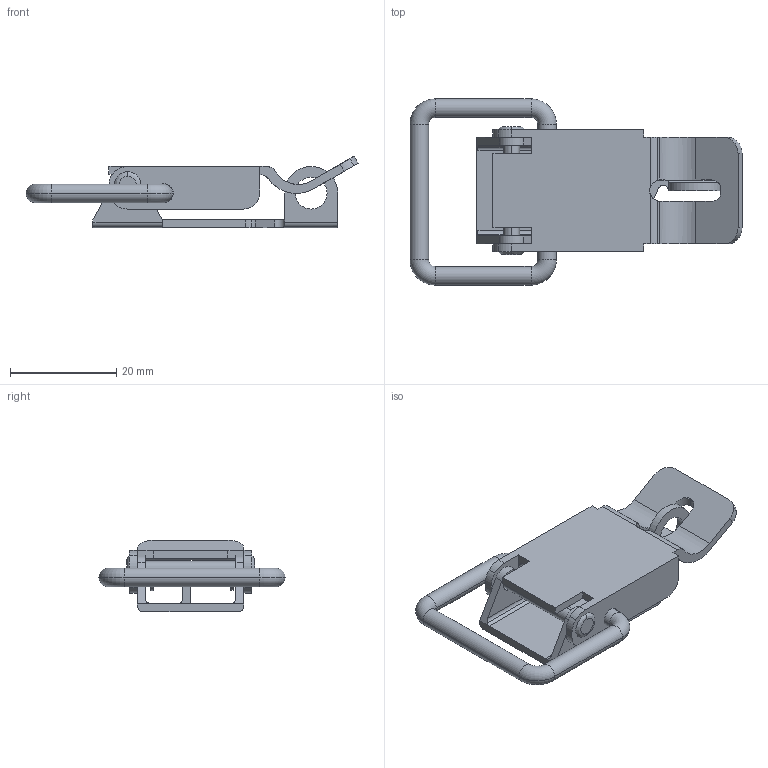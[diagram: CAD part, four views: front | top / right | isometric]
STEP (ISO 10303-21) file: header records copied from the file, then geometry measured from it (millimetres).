
FILE_DESCRIPTION((''),'2;1');
FILE_NAME('3007.stp','2011-08-15T16:13:41',(''),(''),'Mechanical Desktop 2006','Mechanical Desktop 2006',', , ');
FILE_SCHEMA(('CONFIG_CONTROL_DESIGN'));
Length unit declared in the file: millimetre
Products named in the file (5): 3007; ~GRUND 3007; ~FANG BÜGEL 3004-06; ~H.BET.3004; ~STIFT L23
Assembly tree (4 placements, depth 2):
  3007
    ~GRUND 3007
    ~FANG BÜGEL 3004-06
    ~H.BET.3004
    ~STIFT L23
Bounding box: 62.39 x 35 x 13.41 mm (x, y, z)
Volume: 4325.7 mm3; surface area: 6320 mm2
Topology: 4 solids, 4 shells, 155 faces, 412 edges, 267 vertices
Faces by surface type: cylinder 88, plane 53, torus 8, bspline 6
Entity records: 5413 total; most frequent: CARTESIAN_POINT 1239, DIRECTION 898, ORIENTED_EDGE 824, EDGE_CURVE 412, AXIS2_PLACEMENT_3D 346, VERTEX_POINT 267, VECTOR 206, LINE 206
